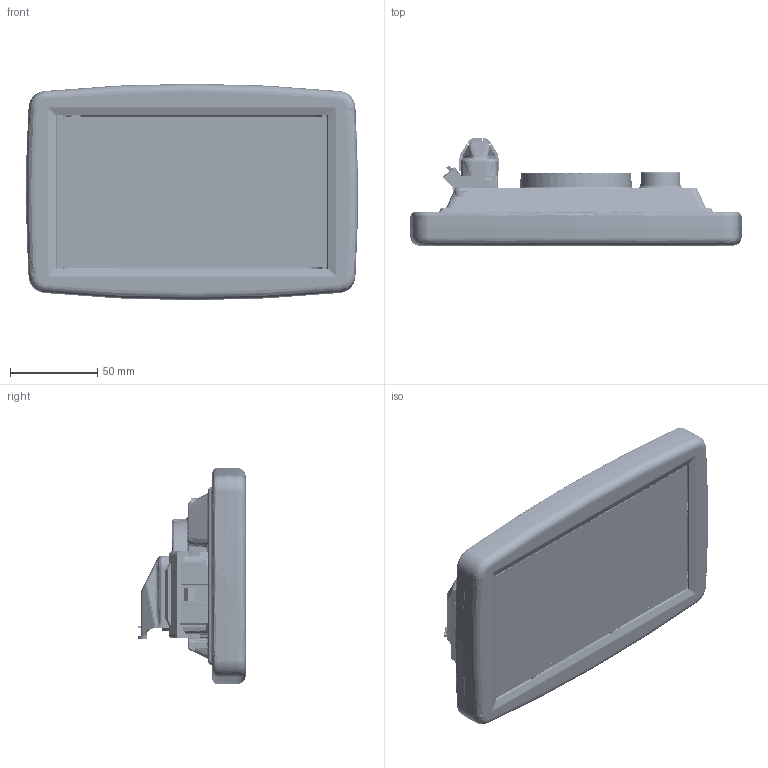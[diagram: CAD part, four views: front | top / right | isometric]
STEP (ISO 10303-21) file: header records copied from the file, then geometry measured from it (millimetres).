
FILE_DESCRIPTION(/* description */ (''),/* implementation_level */ '2;1');
FILE_NAME(/* name */ 'Slimtitan+ARM',/* time_stamp */ '2015-04-10T14:04:06+02:00',/* author */ (''),/* organization */ (''),/* preprocessor_version */ 'ST-DEVELOPER v10',/* originating_system */ '',/* authorisation */ '');
FILE_SCHEMA (('CONFIG_CONTROL_DESIGN'));
Products named in the file (1): 1
Bounding box: 190 x 61.39 x 124 mm (x, y, z)
Volume: 30062.5 mm3; surface area: 107422.8 mm2
Topology: 26 solids, 28 shells, 3746 faces, 9552 edges, 5895 vertices
Faces by surface type: bspline 3746
Entity records: 127901 total; most frequent: CARTESIAN_POINT 74942, ORIENTED_EDGE 18799, EDGE_CURVE 9466, VERTEX_POINT 5890, B_SPLINE_CURVE_WITH_KNOTS 5734, EDGE_LOOP 3968, ADVANCED_FACE 3728, FACE_OUTER_BOUND 3728
